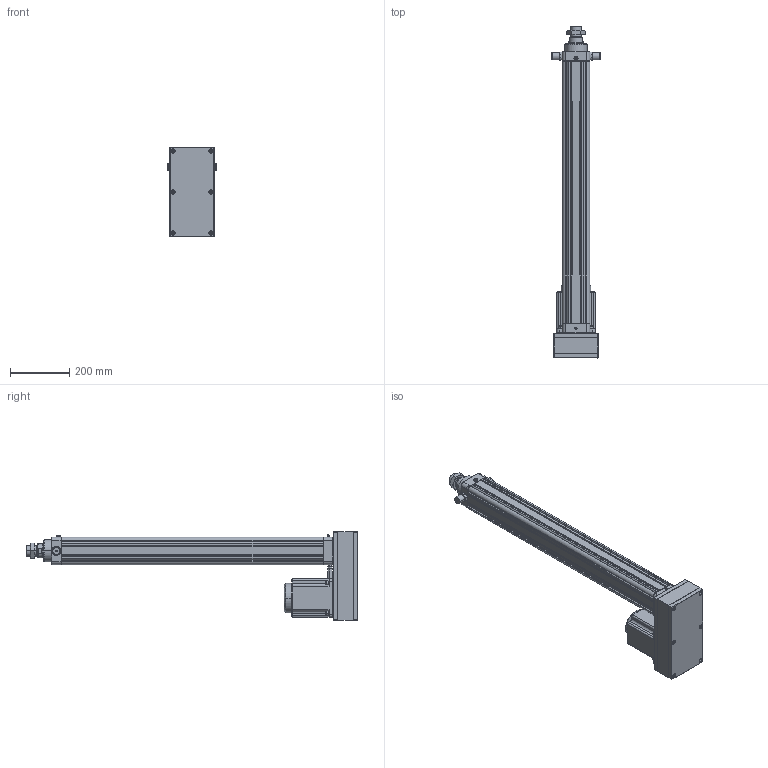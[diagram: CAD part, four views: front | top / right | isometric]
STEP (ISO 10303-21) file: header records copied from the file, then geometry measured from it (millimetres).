
FILE_DESCRIPTION((''),'2;1');
FILE_NAME('HE80-D-P_ASM','2020-05-14T',('ASUS20200'),(''),'CREO PARAMETRIC BY PTC INC, 2014190','CREO PARAMETRIC BY PTC INC, 2014190','');
FILE_SCHEMA(('CONFIG_CONTROL_DESIGN'));
Length unit declared in the file: millimetre
Products named in the file (26): HE80-D-P-001-X1; HE80-D-P-002-X1; HE80-D-P-003-X1; 30304J; YZ-M6X1; SLM-01; JDB506030; HE80-100-D-P-X1_ASM; HE80-P-010-X1-130N; 130ST-M10010; M10X25; HE80-P-009-X1-130N; HE80-P-013-X1-130N; TD-8; M8X35; M8X75; LM-M8-7-5; M10X1-25-40; LM-M10-30; LM-M10; HE80-D-P-005-X1; HE80-D-P-004-X1; HE80-D-P-008-X1; LGLM-M10-25; HE80-TC; HE80-D-P_ASM
Assembly tree (47 placements, depth 3):
  HE80-D-P_ASM
    HE80-100-D-P-X1_ASM
      HE80-D-P-001-X1
      HE80-D-P-002-X1
      HE80-D-P-003-X1
      30304J  x2
      YZ-M6X1
      SLM-01
      JDB506030
    HE80-P-010-X1-130N
    130ST-M10010
    M10X25  x4
    HE80-P-009-X1-130N
    HE80-P-013-X1-130N
    TD-8  x4
    M8X35  x4
    M8X75  x6
    LM-M8-7-5  x4
    M10X1-25-40
    LM-M10-30
    LM-M10
    HE80-D-P-005-X1
    HE80-D-P-004-X1
    HE80-D-P-008-X1
    LGLM-M10-25  x4
    HE80-TC  x2
Bounding box: 163 x 1124 x 300 mm (x, y, z)
Volume: 6951938.4 mm3; surface area: 1677065.3 mm2
Topology: 46 solids, 78 shells, 2293 faces, 5317 edges, 3193 vertices
Faces by surface type: plane 852, cone 688, cylinder 621, torus 102, sphere 26, bspline 4
Entity records: 51728 total; most frequent: CARTESIAN_POINT 10401, DIRECTION 9020, ORIENTED_EDGE 8016, EDGE_CURVE 4069, AXIS2_PLACEMENT_3D 3440, VERTEX_POINT 2453, VECTOR 2140, LINE 2140
